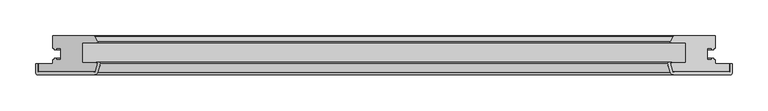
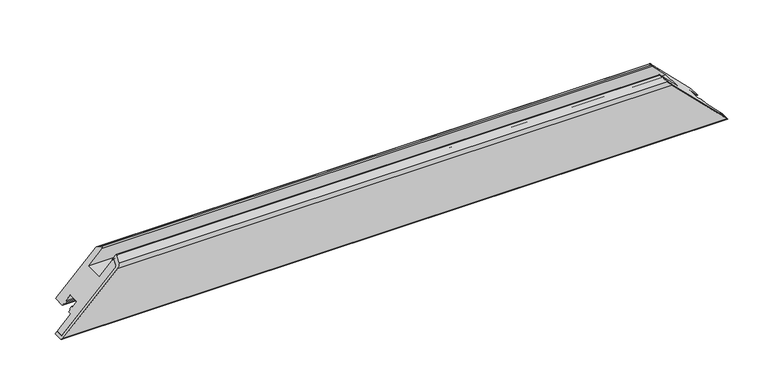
"""IFC4 building model written with IfcOpenShell, lengths in millimetres: proxy geometry, Weiku - Montante - Folha 02.2.01.018 : Weiku - Montante - Folha 02.2.01.018."""

from ifc_helpers import new_model, si_unit, frame, origin, place, context, project, spatial, polyline, ellipse_curve, source, transform, mapped, element, save
from ifc_brep_helpers import plane_surface, cylinder_surface, revolved_surface, advanced_brep


def generic_models_b8f97358(model_context):
    return source(origin(), model_context, "Body", "AdvancedBrep", [
        advanced_brep(
        [(480.55, -50.0, 0.0), (-480.55, -50.0, 0.0), (-403.5497332, -50.0, 77.0002668), (403.5497332, -50.0, 77.0002668), (-400.6519557, -47.7764571, 79.8980443), (400.6519557, -47.7764571, 79.8980443), (-398.0670371, -38.1294095, 82.4829629), (398.0670371, -38.1294095, 82.4829629), (-398.55, -37.5, 82.0), (398.55, -37.5, 82.0), (-399.4060102, -37.5, 81.1439898), (399.4060102, -37.5, 81.1439898), (-399.4060102, -36.5, 81.1439898), (399.4060102, -36.5, 81.1439898), (-394.7925588, -36.5, 85.7574412), (394.7925588, -36.5, 85.7574412), (-393.8266329, -37.758819, 86.7233671), (393.8266329, -37.758819, 86.7233671), (-397.1854501, -50.2940952, 83.3645499), (397.1854501, -50.2940952, 83.3645499), (-402.0150792, -54.0, 78.5349208), (402.0150792, -54.0, 78.5349208), (-481.55, -54.0, -1.0), (481.55, -54.0, -1.0), (-483.55, -52.0, -3.0), (483.55, -52.0, -3.0), (-483.55, -38.5, -3.0), (483.55, -38.5, -3.0), (-480.55, -38.5, 0.0), (480.55, -38.5, 0.0)],
        [
            (0, 1),
            (1, 2),
            (2, 3),
            (3, 0),
            (2, 4, ellipse_curve(frame((-403.5497332, -47.0, 77.0002668), z_axis=(-0.7071067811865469, 0.0, 0.7071067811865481), x_axis=(0.7071067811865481, 0.0, 0.7071067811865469)), 4.2426407, 3.0)),
            (4, 5),
            (5, 3, ellipse_curve(frame((403.5497332, -47.0, 77.0002668), z_axis=(0.7071067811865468, 0.0, 0.7071067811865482), x_axis=(0.7071067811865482, 0.0, -0.7071067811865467)), 4.2426407, 3.0)),
            (4, 6),
            (6, 7),
            (7, 5),
            (6, 8, ellipse_curve(frame((-398.55, -38.0, 82.0), z_axis=(-0.7071067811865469, 0.0, 0.7071067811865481), x_axis=(0.7071067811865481, 0.0, 0.7071067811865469)), 0.7071068, 0.5)),
            (8, 9),
            (9, 7, ellipse_curve(frame((398.55, -38.0, 82.0), z_axis=(0.7071067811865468, 0.0, 0.7071067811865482), x_axis=(0.7071067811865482, 0.0, -0.7071067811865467)), 0.7071068, 0.5)),
            (8, 10),
            (10, 11),
            (11, 9),
            (10, 12, ellipse_curve(frame((-399.4060102, -37.0, 81.1439898), z_axis=(0.7071067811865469, 0.0, -0.7071067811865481), x_axis=(-0.7071067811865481, 0.0, -0.7071067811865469)), 0.7071068, 0.5)),
            (12, 13),
            (13, 11, ellipse_curve(frame((399.4060102, -37.0, 81.1439898), z_axis=(-0.7071067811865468, 0.0, -0.7071067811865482), x_axis=(-0.7071067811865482, 0.0, 0.7071067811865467)), 0.7071068, 0.5)),
            (12, 14),
            (14, 15),
            (15, 13),
            (14, 16, ellipse_curve(frame((-394.7925588, -37.5, 85.7574412), z_axis=(0.7071067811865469, 0.0, -0.7071067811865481), x_axis=(-0.7071067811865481, 0.0, -0.7071067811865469)), 1.4142136, 1.0)),
            (16, 17),
            (17, 15, ellipse_curve(frame((394.7925588, -37.5, 85.7574412), z_axis=(-0.7071067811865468, 0.0, -0.7071067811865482), x_axis=(-0.7071067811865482, 0.0, 0.7071067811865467)), 1.4142136, 1.0)),
            (16, 18),
            (18, 19),
            (19, 17),
            (18, 20, ellipse_curve(frame((-402.0150792, -49.0, 78.5349208), z_axis=(0.7071067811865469, 0.0, -0.7071067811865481), x_axis=(-0.7071067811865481, 0.0, -0.7071067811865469)), 7.0710678, 5.0)),
            (20, 21),
            (21, 19, ellipse_curve(frame((402.0150792, -49.0, 78.5349208), z_axis=(-0.7071067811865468, 0.0, -0.7071067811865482), x_axis=(-0.7071067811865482, 0.0, 0.7071067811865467)), 7.0710678, 5.0)),
            (20, 22),
            (22, 23),
            (23, 21),
            (22, 24, ellipse_curve(frame((-481.55, -52.0, -1.0), z_axis=(0.7071067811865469, 0.0, -0.7071067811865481), x_axis=(-0.7071067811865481, 0.0, -0.7071067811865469)), 2.8284271, 2.0)),
            (24, 25),
            (25, 23, ellipse_curve(frame((481.55, -52.0, -1.0), z_axis=(-0.7071067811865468, 0.0, -0.7071067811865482), x_axis=(-0.7071067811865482, 0.0, 0.7071067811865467)), 2.8284271, 2.0)),
            (24, 26),
            (26, 27),
            (27, 25),
            (26, 28),
            (28, 29),
            (29, 27),
            (28, 1),
            (0, 29),
        ],
        [
            plane_surface(frame((-500.55, -50.0, 0.0), z_axis=(0.0, 1.0, 0.0), x_axis=(1.0, 0.0, 0.0))),
            revolved_surface(polyline([(406.54973320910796, -50.0, 77.0002668), (-406.549733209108, -50.0, 77.0002668)]), (-500.55, -47.0, 77.0002668), (1.0, 0.0, 0.0)),
            plane_surface(frame((-500.55, -47.7764571, 79.8980443), z_axis=(0.0, 0.2588190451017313, -0.9659258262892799), x_axis=(1.0, 0.0, 0.0))),
            revolved_surface(polyline([(399.0500000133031, -38.5, 82.0), (-399.05000001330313, -38.5, 82.0)]), (-500.55, -38.0, 82.0), (1.0, 0.0, 0.0)),
            plane_surface(frame((-500.55, -37.5, 82.0), z_axis=(0.0, -1.0, 0.0), x_axis=(1.0, 0.0, 0.0))),
            cylinder_surface(frame((-500.55, -37.0, 81.1439898), z_axis=(-1.0, 0.0, 0.0), x_axis=(0.0, -1.0, 0.0)), 0.5),
            plane_surface(frame((-500.55, -36.5, 81.1439898), z_axis=(0.0, 1.0, 0.0), x_axis=(1.0, 0.0, 0.0))),
            cylinder_surface(frame((-500.55, -37.5, 85.7574412), z_axis=(-1.0, 0.0, 0.0), x_axis=(0.0, -1.0, 0.0)), 1.0),
            plane_surface(frame((-500.55, -37.758819, 86.7233671), z_axis=(0.0, -0.25881904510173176, 0.9659258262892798), x_axis=(1.0, 0.0, 0.0))),
            cylinder_surface(frame((-500.55, -49.0, 78.5349208), z_axis=(-1.0, 0.0, 0.0), x_axis=(0.0, -1.0, 0.0)), 5.0),
            plane_surface(frame((-500.55, -54.0, 78.5349208), z_axis=(0.0, -1.0, 0.0), x_axis=(1.0, 0.0, 0.0))),
            cylinder_surface(frame((-500.55, -52.0, -1.0), z_axis=(-1.0, 0.0, 0.0), x_axis=(0.0, -1.0, 0.0)), 2.0),
            plane_surface(frame((-500.55, -52.0, -3.0), z_axis=(0.0, 0.0, -1.0), x_axis=(1.0, 0.0, 0.0))),
            plane_surface(frame((-500.55, -38.5, -3.0), z_axis=(0.0, 1.0, 0.0), x_axis=(1.0, 0.0, 0.0))),
            plane_surface(frame((-500.55, -38.5, 0.0), z_axis=(0.0, 0.0, 1.0), x_axis=(1.0, 0.0, 0.0))),
            plane_surface(frame((390.55, 0.0, 90.0), z_axis=(0.7071067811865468, 0.0, 0.7071067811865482), x_axis=(0.0, -1.0, 0.0))),
            plane_surface(frame((-508.8342712, 0.0, -28.2842712), z_axis=(-0.7071067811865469, 0.0, 0.7071067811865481), x_axis=(0.0, -1.0, 0.0))),
        ],
        [
            (0, [[1, 2, 3, 4]]),
            (1, [[-3, 5, 6, 7]]),
            (2, [[-6, 8, 9, 10]]),
            (3, [[-9, 11, 12, 13]]),
            (4, [[-12, 14, 15, 16]]),
            (5, [[-15, 17, 18, 19]]),
            (6, [[-18, 20, 21, 22]]),
            (7, [[-21, 23, 24, 25]]),
            (8, [[-24, 26, 27, 28]]),
            (9, [[-27, 29, 30, 31]]),
            (10, [[-30, 32, 33, 34]]),
            (11, [[-33, 35, 36, 37]]),
            (12, [[-36, 38, 39, 40]]),
            (13, [[-39, 41, 42, 43]]),
            (14, [[-42, 44, -1, 45]]),
            (15, [[-7, -10, -13, -16, -19, -22, -25, -28, -31, -34, -37, -40, -43, -45, -4]]),
            (16, [[-44, -41, -38, -35, -32, -29, -26, -23, -20, -17, -14, -11, -8, -5, -2]]),
        ],
    ),
        advanced_brep(
        [(480.55, -50.0, 0.0), (403.5497332, -50.0, 77.0002668), (-403.5497332, -50.0, 77.0002668), (-480.55, -50.0, 0.0), (-480.55, -38.5, 0.0), (480.55, -38.5, 0.0), (-402.5372264, 0.0, 78.0127736), (402.5372264, 0.0, 78.0127736), (460.55, 0.0, 20.0), (-460.55, 0.0, 20.0), (-400.6519557, -47.7764571, 79.8980443), (-398.0670371, -38.1294095, 82.4829629), (-398.55, -37.5, 82.0), (-419.05, -37.5, 61.5), (-419.05, -9.5, 61.5), (-399.2634285, -9.5, 81.2865715), (-398.1012796, -7.617411, 82.4487204), (-401.6432657, -0.5518546, 78.9067343), (-460.55, -16.9, 20.0), (-458.35, -16.9, 22.2), (-458.35, -18.9, 22.2), (-455.55, -18.9, 25.0), (-455.55, -16.9, 25.0), (-449.05, -16.9, 31.5), (-449.05, -33.1, 31.5), (-455.55, -33.1, 25.0), (-455.55, -31.1, 25.0), (-458.35, -31.1, 22.2), (-458.35, -33.1, 22.2), (-460.55, -33.1, 20.0), (-460.55, -38.5, 20.0), (460.55, -38.5, 20.0), (460.55, -33.1, 20.0), (458.35, -33.1, 22.2), (458.35, -31.1, 22.2), (455.55, -31.1, 25.0), (455.55, -33.1, 25.0), (449.05, -33.1, 31.5), (449.05, -16.9, 31.5), (455.55, -16.9, 25.0), (455.55, -18.9, 25.0), (458.35, -18.9, 22.2), (458.35, -16.9, 22.2), (460.55, -16.9, 20.0), (401.6432657, -0.5518546, 78.9067343), (398.1012796, -7.617411, 82.4487204), (399.2634285, -9.5, 81.2865715), (419.05, -9.5, 61.5), (419.05, -37.5, 61.5), (398.55, -37.5, 82.0), (398.0670371, -38.1294095, 82.4829629), (400.6519557, -47.7764571, 79.8980443)],
        [
            (0, 1),
            (1, 2),
            (2, 3),
            (3, 0),
            (3, 4),
            (4, 5),
            (5, 0),
            (6, 7),
            (7, 8),
            (8, 9),
            (9, 6),
            (2, 10, ellipse_curve(frame((-403.5497332, -47.0, 77.0002668), z_axis=(-0.7071067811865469, 0.0, 0.7071067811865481), x_axis=(-0.7071067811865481, 0.0, -0.7071067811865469)), 4.2426407, 3.0)),
            (10, 11),
            (11, 12, ellipse_curve(frame((-398.55, -38.0, 82.0), z_axis=(-0.7071067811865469, 0.0, 0.7071067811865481), x_axis=(-0.7071067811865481, 0.0, -0.7071067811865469)), 0.7071068, 0.5)),
            (12, 13),
            (13, 14),
            (14, 15),
            (15, 16, ellipse_curve(frame((-399.2634285, -8.2, 81.2865715), z_axis=(-0.7071067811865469, 0.0, 0.7071067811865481), x_axis=(-0.7071067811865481, 0.0, -0.7071067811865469)), 1.8384776, 1.3)),
            (16, 17),
            (17, 6, ellipse_curve(frame((-402.5372264, -1.0, 78.0127736), z_axis=(-0.7071067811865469, 0.0, 0.7071067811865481), x_axis=(-0.7071067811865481, 0.0, -0.7071067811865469)), 1.4142136, 1.0)),
            (9, 18),
            (18, 19),
            (19, 20),
            (20, 21),
            (21, 22),
            (22, 23),
            (23, 24),
            (24, 25),
            (25, 26),
            (26, 27),
            (27, 28),
            (28, 29),
            (29, 30),
            (30, 4),
            (5, 31),
            (31, 32),
            (32, 33),
            (33, 34),
            (34, 35),
            (35, 36),
            (36, 37),
            (37, 38),
            (38, 39),
            (39, 40),
            (40, 41),
            (41, 42),
            (42, 43),
            (43, 8),
            (7, 44, ellipse_curve(frame((402.5372264, -1.0, 78.0127736), z_axis=(0.7071067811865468, 0.0, 0.7071067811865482), x_axis=(-0.7071067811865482, 0.0, 0.7071067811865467)), 1.4142136, 1.0)),
            (44, 45),
            (45, 46, ellipse_curve(frame((399.2634285, -8.2, 81.2865715), z_axis=(0.7071067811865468, 0.0, 0.7071067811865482), x_axis=(-0.7071067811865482, 0.0, 0.7071067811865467)), 1.8384776, 1.3)),
            (46, 47),
            (47, 48),
            (48, 49),
            (49, 50, ellipse_curve(frame((398.55, -38.0, 82.0), z_axis=(0.7071067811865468, 0.0, 0.7071067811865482), x_axis=(-0.7071067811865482, 0.0, 0.7071067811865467)), 0.7071068, 0.5)),
            (50, 51),
            (51, 1, ellipse_curve(frame((403.5497332, -47.0, 77.0002668), z_axis=(0.7071067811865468, 0.0, 0.7071067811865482), x_axis=(-0.7071067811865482, 0.0, 0.7071067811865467)), 4.2426407, 3.0)),
            (17, 44),
            (16, 45),
            (15, 46),
            (14, 47),
            (13, 48),
            (12, 49),
            (11, 50),
            (10, 51),
            (30, 31),
            (29, 32),
            (28, 33),
            (27, 34),
            (26, 35),
            (25, 36),
            (24, 37),
            (23, 38),
            (22, 39),
            (21, 40),
            (20, 41),
            (19, 42),
            (18, 43),
        ],
        [
            plane_surface(frame((-480.55, -50.0, 77.0002668), z_axis=(0.0, -1.0, 0.0), x_axis=(1.0, 0.0, 0.0))),
            plane_surface(frame((-480.55, -50.0, 0.0), z_axis=(0.0, 0.0, -1.0), x_axis=(1.0, 0.0, 0.0))),
            plane_surface(frame((-480.55, 0.0, 20.0), z_axis=(0.0, 1.0, 0.0), x_axis=(1.0, 0.0, 0.0))),
            plane_surface(frame((-508.8342712, 0.0, -28.2842712), z_axis=(-0.7071067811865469, 0.0, 0.7071067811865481), x_axis=(0.0, -1.0, 0.0))),
            plane_surface(frame((390.55, 0.0, 90.0), z_axis=(0.7071067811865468, 0.0, 0.7071067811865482), x_axis=(0.0, -1.0, 0.0))),
            cylinder_surface(frame((-480.55, -1.0, 78.0127736), z_axis=(-1.0, 0.0, 0.0), x_axis=(0.0, -1.0, 0.0)), 1.0),
            plane_surface(frame((-480.55, -0.5518546, 78.9067343), z_axis=(0.0, 0.4481453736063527, 0.8939606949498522), x_axis=(1.0, 0.0, 0.0))),
            cylinder_surface(frame((-480.55, -8.2, 81.2865715), z_axis=(-1.0, 0.0, 0.0), x_axis=(0.0, -1.0, 0.0)), 1.3),
            plane_surface(frame((-480.55, -9.5, 81.2865715), z_axis=(0.0, -1.0, 0.0), x_axis=(1.0, 0.0, 0.0))),
            plane_surface(frame((-480.55, -9.5, 61.5), z_axis=(0.0, 0.0, 1.0), x_axis=(1.0, 0.0, 0.0))),
            plane_surface(frame((-480.55, -37.5, 61.5), z_axis=(0.0, 1.0, 0.0), x_axis=(1.0, 0.0, 0.0))),
            cylinder_surface(frame((-480.55, -38.0, 82.0), z_axis=(-1.0, 0.0, 0.0), x_axis=(0.0, -1.0, 0.0)), 0.5),
            plane_surface(frame((-480.55, -38.1294095, 82.4829629), z_axis=(0.0, -0.2588190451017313, 0.9659258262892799), x_axis=(1.0, 0.0, 0.0))),
            cylinder_surface(frame((-480.55, -47.0, 77.0002668), z_axis=(-1.0, 0.0, 0.0), x_axis=(0.0, -1.0, 0.0)), 3.0),
            plane_surface(frame((-480.55, -38.5, 0.0), z_axis=(0.0, 1.0, 0.0), x_axis=(1.0, 0.0, 0.0))),
            plane_surface(frame((-480.55, -38.5, 20.0), z_axis=(0.0, 0.0, -1.0), x_axis=(1.0, 0.0, 0.0))),
            plane_surface(frame((-480.55, -33.1, 20.0), z_axis=(0.0, 1.0, 0.0), x_axis=(1.0, 0.0, 0.0))),
            plane_surface(frame((-480.55, -33.1, 22.2), z_axis=(0.0, 0.0, -1.0), x_axis=(1.0, 0.0, 0.0))),
            plane_surface(frame((-480.55, -31.1, 22.2), z_axis=(0.0, 1.0, 0.0), x_axis=(1.0, 0.0, 0.0))),
            plane_surface(frame((-480.55, -31.1, 25.0), z_axis=(0.0, 0.0, 1.0), x_axis=(1.0, 0.0, 0.0))),
            plane_surface(frame((-480.55, -33.1, 25.0), z_axis=(0.0, 1.0, 0.0), x_axis=(1.0, 0.0, 0.0))),
            plane_surface(frame((-480.55, -33.1, 31.5), z_axis=(0.0, 0.0, -1.0), x_axis=(1.0, 0.0, 0.0))),
            plane_surface(frame((-480.55, -16.9, 31.5), z_axis=(0.0, -1.0, 0.0), x_axis=(1.0, 0.0, 0.0))),
            plane_surface(frame((-480.55, -16.9, 25.0), z_axis=(0.0, 0.0, 1.0), x_axis=(1.0, 0.0, 0.0))),
            plane_surface(frame((-480.55, -18.9, 25.0), z_axis=(0.0, -1.0, 0.0), x_axis=(1.0, 0.0, 0.0))),
            plane_surface(frame((-480.55, -18.9, 22.2), z_axis=(0.0, 0.0, -1.0), x_axis=(1.0, 0.0, 0.0))),
            plane_surface(frame((-480.55, -16.9, 22.2), z_axis=(0.0, -1.0, 0.0), x_axis=(1.0, 0.0, 0.0))),
            plane_surface(frame((-480.55, -16.9, 20.0), z_axis=(0.0, 0.0, -1.0), x_axis=(1.0, 0.0, 0.0))),
        ],
        [
            (0, [[1, 2, 3, 4]]),
            (1, [[5, 6, 7, -4]]),
            (2, [[8, 9, 10, 11]]),
            (3, [[12, 13, 14, 15, 16, 17, 18, 19, 20, -11, 21, 22, 23, 24, 25, 26, 27, 28, 29, 30, 31, 32, 33, 34, -5, -3]]),
            (4, [[-7, 35, 36, 37, 38, 39, 40, 41, 42, 43, 44, 45, 46, 47, 48, -9, 49, 50, 51, 52, 53, 54, 55, 56, 57, -1]]),
            (5, [[58, -49, -8, -20]]),
            (6, [[59, -50, -58, -19]]),
            (7, [[60, -51, -59, -18]]),
            (8, [[61, -52, -60, -17]]),
            (9, [[62, -53, -61, -16]]),
            (10, [[63, -54, -62, -15]]),
            (11, [[64, -55, -63, -14]]),
            (12, [[65, -56, -64, -13]]),
            (13, [[-2, -57, -65, -12]]),
            (14, [[-34, 66, -35, -6]]),
            (15, [[67, -36, -66, -33]]),
            (16, [[68, -37, -67, -32]]),
            (17, [[69, -38, -68, -31]]),
            (18, [[70, -39, -69, -30]]),
            (19, [[71, -40, -70, -29]]),
            (20, [[72, -41, -71, -28]]),
            (21, [[73, -42, -72, -27]]),
            (22, [[74, -43, -73, -26]]),
            (23, [[75, -44, -74, -25]]),
            (24, [[76, -45, -75, -24]]),
            (25, [[77, -46, -76, -23]]),
            (26, [[78, -47, -77, -22]]),
            (27, [[-10, -48, -78, -21]]),
        ],
    ),
    ])


if __name__ == "__main__":
    model = new_model("IFC4")
    model_context = context("Model", 3, world=origin())
    ifc_project = project(units=[si_unit("LENGTHUNIT", "METRE", prefix="MILLI")], contexts=[model_context])
    site = spatial("IfcSite", under=ifc_project)
    building = spatial("IfcBuilding", under=site)
    placement = place(None, origin())
    generic_models_shape = generic_models_b8f97358(model_context)
    element("IfcBuildingElementProxy", 1, Name="Weiku - Montante - Folha 02.2.01.018 : Weiku - Montante - Folha 02.2.01.018", ObjectType="Weiku - Montante - Folha 02.2.01.018 : Weiku - Montante - Folha 02.2.01.018", at=placement, inside=building, context=model_context, shape_type="MappedRepresentation", body=[
        mapped(generic_models_shape, transform((0.0, 0.0, 0.0), x_axis=(1.0, 0.0, 0.0), y_axis=(0.0, 1.0, 0.0), z_axis=(0.0, 0.0, 1.0))),
    ])
    save(model, "model.ifc")
